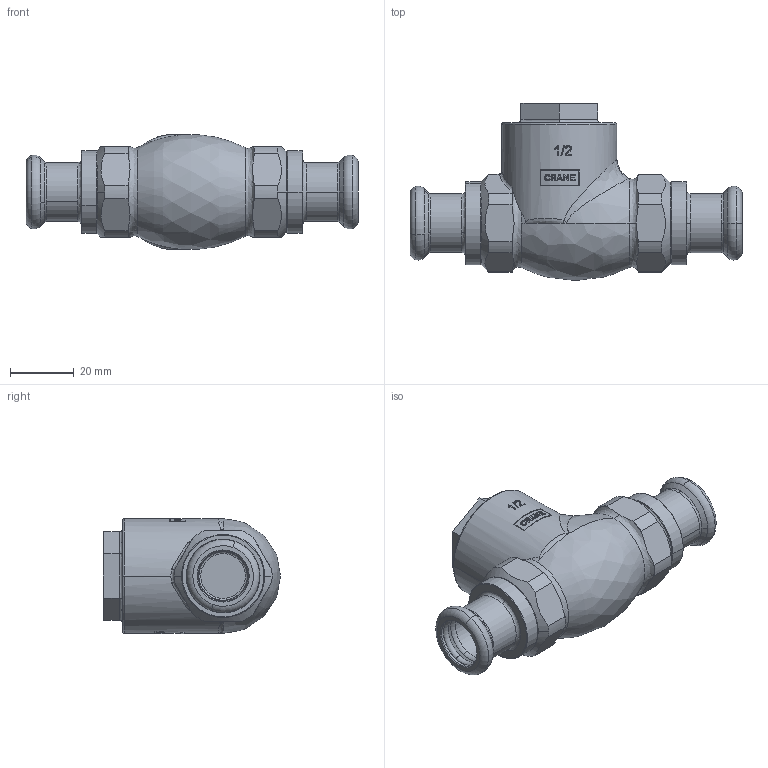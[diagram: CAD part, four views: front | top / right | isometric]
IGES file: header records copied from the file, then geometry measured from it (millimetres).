
Global section: file name: No Iges File Name specified; native system: AutoDesk Inventor R12.0; preprocessor: AutoDesk Inventor Iges Exporter R12.0; date: 20110822.110935; units: millimetre
Bounding box: 104.1 x 55.5 x 36.2 mm (x, y, z)
Volume: 61051.2 mm3; surface area: 21343.7 mm2
Topology: 1 solids, 4 shells, 498 faces, 1359 edges, 893 vertices
Faces by surface type: bspline 243, plane 126, revolution 42, cylinder 41, cone 28, torus 18
